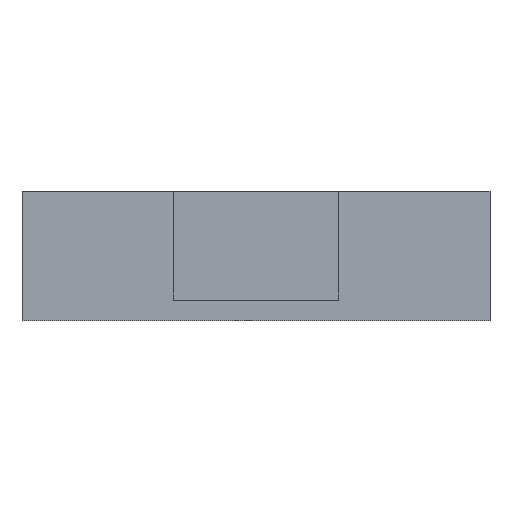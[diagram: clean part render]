
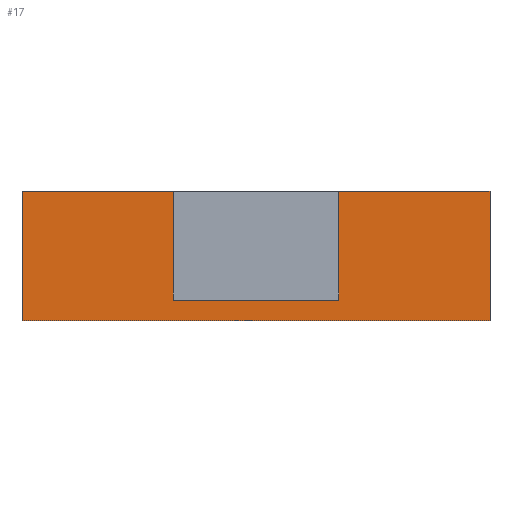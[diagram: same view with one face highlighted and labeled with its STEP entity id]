
A CAD part, left-side view. The second image highlights one B-rep face of the part: STEP entity #17.
In plain terms, the highlighted planar face has unit normal (-1, 0, 0).
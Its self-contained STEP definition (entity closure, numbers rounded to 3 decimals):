
#17 = ADVANCED_FACE('',(#18),#32,.F.);
#18 = FACE_BOUND('',#19,.F.);
#19 = EDGE_LOOP('',(#20,#55,#83,#111,#139,#162,#190,#218));
#20 = ORIENTED_EDGE('',*,*,#21,.F.);
#21 = EDGE_CURVE('',#22,#24,#26,.T.);
#22 = VERTEX_POINT('',#23);
#23 = CARTESIAN_POINT('',(-10.8,-44.5,24.05));
#24 = VERTEX_POINT('',#25);
#25 = CARTESIAN_POINT('',(-10.8,-39.,24.05));
#26 = SURFACE_CURVE('',#27,(#31,#43),.PCURVE_S1.);
#27 = LINE('',#28,#29);
#28 = CARTESIAN_POINT('',(-10.8,-44.5,24.05));
#29 = VECTOR('',#30,1.);
#30 = DIRECTION('',(0.,1.,0.));
#31 = PCURVE('',#32,#37);
#32 = PLANE('',#33);
#33 = AXIS2_PLACEMENT_3D('',#34,#35,#36);
#34 = CARTESIAN_POINT('',(-10.8,-44.5,19.35));
#35 = DIRECTION('',(1.,0.,0.));
#36 = DIRECTION('',(0.,0.,1.));
#37 = DEFINITIONAL_REPRESENTATION('',(#38),#42);
#38 = LINE('',#39,#40);
#39 = CARTESIAN_POINT('',(4.7,0.));
#40 = VECTOR('',#41,1.);
#41 = DIRECTION('',(0.,-1.));
#42 = ( GEOMETRIC_REPRESENTATION_CONTEXT(2) 
PARAMETRIC_REPRESENTATION_CONTEXT() REPRESENTATION_CONTEXT('2D SPACE',''
  ) );
#43 = PCURVE('',#44,#49);
#44 = PLANE('',#45);
#45 = AXIS2_PLACEMENT_3D('',#46,#47,#48);
#46 = CARTESIAN_POINT('',(-10.8,-44.5,24.05));
#47 = DIRECTION('',(0.,0.,1.));
#48 = DIRECTION('',(1.,0.,0.));
#49 = DEFINITIONAL_REPRESENTATION('',(#50),#54);
#50 = LINE('',#51,#52);
#51 = CARTESIAN_POINT('',(0.,0.));
#52 = VECTOR('',#53,1.);
#53 = DIRECTION('',(0.,1.));
#54 = ( GEOMETRIC_REPRESENTATION_CONTEXT(2) 
PARAMETRIC_REPRESENTATION_CONTEXT() REPRESENTATION_CONTEXT('2D SPACE',''
  ) );
#55 = ORIENTED_EDGE('',*,*,#56,.F.);
#56 = EDGE_CURVE('',#57,#22,#59,.T.);
#57 = VERTEX_POINT('',#58);
#58 = CARTESIAN_POINT('',(-10.8,-44.5,19.35));
#59 = SURFACE_CURVE('',#60,(#64,#71),.PCURVE_S1.);
#60 = LINE('',#61,#62);
#61 = CARTESIAN_POINT('',(-10.8,-44.5,19.35));
#62 = VECTOR('',#63,1.);
#63 = DIRECTION('',(0.,0.,1.));
#64 = PCURVE('',#32,#65);
#65 = DEFINITIONAL_REPRESENTATION('',(#66),#70);
#66 = LINE('',#67,#68);
#67 = CARTESIAN_POINT('',(0.,0.));
#68 = VECTOR('',#69,1.);
#69 = DIRECTION('',(1.,0.));
#70 = ( GEOMETRIC_REPRESENTATION_CONTEXT(2) 
PARAMETRIC_REPRESENTATION_CONTEXT() REPRESENTATION_CONTEXT('2D SPACE',''
  ) );
#71 = PCURVE('',#72,#77);
#72 = PLANE('',#73);
#73 = AXIS2_PLACEMENT_3D('',#74,#75,#76);
#74 = CARTESIAN_POINT('',(-10.8,-44.5,19.35));
#75 = DIRECTION('',(0.,1.,0.));
#76 = DIRECTION('',(0.,0.,1.));
#77 = DEFINITIONAL_REPRESENTATION('',(#78),#82);
#78 = LINE('',#79,#80);
#79 = CARTESIAN_POINT('',(0.,0.));
#80 = VECTOR('',#81,1.);
#81 = DIRECTION('',(1.,0.));
#82 = ( GEOMETRIC_REPRESENTATION_CONTEXT(2) 
PARAMETRIC_REPRESENTATION_CONTEXT() REPRESENTATION_CONTEXT('2D SPACE',''
  ) );
#83 = ORIENTED_EDGE('',*,*,#84,.T.);
#84 = EDGE_CURVE('',#57,#85,#87,.T.);
#85 = VERTEX_POINT('',#86);
#86 = CARTESIAN_POINT('',(-10.8,-27.5,19.35));
#87 = SURFACE_CURVE('',#88,(#92,#99),.PCURVE_S1.);
#88 = LINE('',#89,#90);
#89 = CARTESIAN_POINT('',(-10.8,-44.5,19.35));
#90 = VECTOR('',#91,1.);
#91 = DIRECTION('',(0.,1.,0.));
#92 = PCURVE('',#32,#93);
#93 = DEFINITIONAL_REPRESENTATION('',(#94),#98);
#94 = LINE('',#95,#96);
#95 = CARTESIAN_POINT('',(0.,0.));
#96 = VECTOR('',#97,1.);
#97 = DIRECTION('',(0.,-1.));
#98 = ( GEOMETRIC_REPRESENTATION_CONTEXT(2) 
PARAMETRIC_REPRESENTATION_CONTEXT() REPRESENTATION_CONTEXT('2D SPACE',''
  ) );
#99 = PCURVE('',#100,#105);
#100 = PLANE('',#101);
#101 = AXIS2_PLACEMENT_3D('',#102,#103,#104);
#102 = CARTESIAN_POINT('',(-10.8,-44.5,19.35));
#103 = DIRECTION('',(0.,0.,1.));
#104 = DIRECTION('',(1.,0.,0.));
#105 = DEFINITIONAL_REPRESENTATION('',(#106),#110);
#106 = LINE('',#107,#108);
#107 = CARTESIAN_POINT('',(0.,0.));
#108 = VECTOR('',#109,1.);
#109 = DIRECTION('',(0.,1.));
#110 = ( GEOMETRIC_REPRESENTATION_CONTEXT(2) 
PARAMETRIC_REPRESENTATION_CONTEXT() REPRESENTATION_CONTEXT('2D SPACE',''
  ) );
#111 = ORIENTED_EDGE('',*,*,#112,.T.);
#112 = EDGE_CURVE('',#85,#113,#115,.T.);
#113 = VERTEX_POINT('',#114);
#114 = CARTESIAN_POINT('',(-10.8,-27.5,24.05));
#115 = SURFACE_CURVE('',#116,(#120,#127),.PCURVE_S1.);
#116 = LINE('',#117,#118);
#117 = CARTESIAN_POINT('',(-10.8,-27.5,19.35));
#118 = VECTOR('',#119,1.);
#119 = DIRECTION('',(0.,0.,1.));
#120 = PCURVE('',#32,#121);
#121 = DEFINITIONAL_REPRESENTATION('',(#122),#126);
#122 = LINE('',#123,#124);
#123 = CARTESIAN_POINT('',(0.,-17.));
#124 = VECTOR('',#125,1.);
#125 = DIRECTION('',(1.,0.));
#126 = ( GEOMETRIC_REPRESENTATION_CONTEXT(2) 
PARAMETRIC_REPRESENTATION_CONTEXT() REPRESENTATION_CONTEXT('2D SPACE',''
  ) );
#127 = PCURVE('',#128,#133);
#128 = PLANE('',#129);
#129 = AXIS2_PLACEMENT_3D('',#130,#131,#132);
#130 = CARTESIAN_POINT('',(-10.8,-27.5,19.35));
#131 = DIRECTION('',(0.,1.,0.));
#132 = DIRECTION('',(0.,0.,1.));
#133 = DEFINITIONAL_REPRESENTATION('',(#134),#138);
#134 = LINE('',#135,#136);
#135 = CARTESIAN_POINT('',(0.,0.));
#136 = VECTOR('',#137,1.);
#137 = DIRECTION('',(1.,0.));
#138 = ( GEOMETRIC_REPRESENTATION_CONTEXT(2) 
PARAMETRIC_REPRESENTATION_CONTEXT() REPRESENTATION_CONTEXT('2D SPACE',''
  ) );
#139 = ORIENTED_EDGE('',*,*,#140,.F.);
#140 = EDGE_CURVE('',#141,#113,#143,.T.);
#141 = VERTEX_POINT('',#142);
#142 = CARTESIAN_POINT('',(-10.8,-33.,24.05));
#143 = SURFACE_CURVE('',#144,(#148,#155),.PCURVE_S1.);
#144 = LINE('',#145,#146);
#145 = CARTESIAN_POINT('',(-10.8,-44.5,24.05));
#146 = VECTOR('',#147,1.);
#147 = DIRECTION('',(0.,1.,0.));
#148 = PCURVE('',#32,#149);
#149 = DEFINITIONAL_REPRESENTATION('',(#150),#154);
#150 = LINE('',#151,#152);
#151 = CARTESIAN_POINT('',(4.7,0.));
#152 = VECTOR('',#153,1.);
#153 = DIRECTION('',(0.,-1.));
#154 = ( GEOMETRIC_REPRESENTATION_CONTEXT(2) 
PARAMETRIC_REPRESENTATION_CONTEXT() REPRESENTATION_CONTEXT('2D SPACE',''
  ) );
#155 = PCURVE('',#44,#156);
#156 = DEFINITIONAL_REPRESENTATION('',(#157),#161);
#157 = LINE('',#158,#159);
#158 = CARTESIAN_POINT('',(0.,0.));
#159 = VECTOR('',#160,1.);
#160 = DIRECTION('',(0.,1.));
#161 = ( GEOMETRIC_REPRESENTATION_CONTEXT(2) 
PARAMETRIC_REPRESENTATION_CONTEXT() REPRESENTATION_CONTEXT('2D SPACE',''
  ) );
#162 = ORIENTED_EDGE('',*,*,#163,.F.);
#163 = EDGE_CURVE('',#164,#141,#166,.T.);
#164 = VERTEX_POINT('',#165);
#165 = CARTESIAN_POINT('',(-10.8,-33.,20.1));
#166 = SURFACE_CURVE('',#167,(#171,#178),.PCURVE_S1.);
#167 = LINE('',#168,#169);
#168 = CARTESIAN_POINT('',(-10.8,-33.,19.725));
#169 = VECTOR('',#170,1.);
#170 = DIRECTION('',(0.,0.,1.));
#171 = PCURVE('',#32,#172);
#172 = DEFINITIONAL_REPRESENTATION('',(#173),#177);
#173 = LINE('',#174,#175);
#174 = CARTESIAN_POINT('',(0.375,-11.5));
#175 = VECTOR('',#176,1.);
#176 = DIRECTION('',(1.,0.));
#177 = ( GEOMETRIC_REPRESENTATION_CONTEXT(2) 
PARAMETRIC_REPRESENTATION_CONTEXT() REPRESENTATION_CONTEXT('2D SPACE',''
  ) );
#178 = PCURVE('',#179,#184);
#179 = PLANE('',#180);
#180 = AXIS2_PLACEMENT_3D('',#181,#182,#183);
#181 = CARTESIAN_POINT('',(-34.,-33.,20.1));
#182 = DIRECTION('',(0.,1.,0.));
#183 = DIRECTION('',(0.,0.,1.));
#184 = DEFINITIONAL_REPRESENTATION('',(#185),#189);
#185 = LINE('',#186,#187);
#186 = CARTESIAN_POINT('',(-0.375,23.2));
#187 = VECTOR('',#188,1.);
#188 = DIRECTION('',(1.,0.));
#189 = ( GEOMETRIC_REPRESENTATION_CONTEXT(2) 
PARAMETRIC_REPRESENTATION_CONTEXT() REPRESENTATION_CONTEXT('2D SPACE',''
  ) );
#190 = ORIENTED_EDGE('',*,*,#191,.T.);
#191 = EDGE_CURVE('',#164,#192,#194,.T.);
#192 = VERTEX_POINT('',#193);
#193 = CARTESIAN_POINT('',(-10.8,-39.,20.1));
#194 = SURFACE_CURVE('',#195,(#199,#206),.PCURVE_S1.);
#195 = LINE('',#196,#197);
#196 = CARTESIAN_POINT('',(-10.8,-41.75,20.1));
#197 = VECTOR('',#198,1.);
#198 = DIRECTION('',(0.,-1.,0.));
#199 = PCURVE('',#32,#200);
#200 = DEFINITIONAL_REPRESENTATION('',(#201),#205);
#201 = LINE('',#202,#203);
#202 = CARTESIAN_POINT('',(0.75,-2.75));
#203 = VECTOR('',#204,1.);
#204 = DIRECTION('',(0.,1.));
#205 = ( GEOMETRIC_REPRESENTATION_CONTEXT(2) 
PARAMETRIC_REPRESENTATION_CONTEXT() REPRESENTATION_CONTEXT('2D SPACE',''
  ) );
#206 = PCURVE('',#207,#212);
#207 = PLANE('',#208);
#208 = AXIS2_PLACEMENT_3D('',#209,#210,#211);
#209 = CARTESIAN_POINT('',(-34.,-39.,20.1));
#210 = DIRECTION('',(0.,0.,1.));
#211 = DIRECTION('',(1.,0.,0.));
#212 = DEFINITIONAL_REPRESENTATION('',(#213),#217);
#213 = LINE('',#214,#215);
#214 = CARTESIAN_POINT('',(23.2,-2.75));
#215 = VECTOR('',#216,1.);
#216 = DIRECTION('',(0.,-1.));
#217 = ( GEOMETRIC_REPRESENTATION_CONTEXT(2) 
PARAMETRIC_REPRESENTATION_CONTEXT() REPRESENTATION_CONTEXT('2D SPACE',''
  ) );
#218 = ORIENTED_EDGE('',*,*,#219,.T.);
#219 = EDGE_CURVE('',#192,#24,#220,.T.);
#220 = SURFACE_CURVE('',#221,(#225,#232),.PCURVE_S1.);
#221 = LINE('',#222,#223);
#222 = CARTESIAN_POINT('',(-10.8,-39.,19.725));
#223 = VECTOR('',#224,1.);
#224 = DIRECTION('',(0.,0.,1.));
#225 = PCURVE('',#32,#226);
#226 = DEFINITIONAL_REPRESENTATION('',(#227),#231);
#227 = LINE('',#228,#229);
#228 = CARTESIAN_POINT('',(0.375,-5.5));
#229 = VECTOR('',#230,1.);
#230 = DIRECTION('',(1.,0.));
#231 = ( GEOMETRIC_REPRESENTATION_CONTEXT(2) 
PARAMETRIC_REPRESENTATION_CONTEXT() REPRESENTATION_CONTEXT('2D SPACE',''
  ) );
#232 = PCURVE('',#233,#238);
#233 = PLANE('',#234);
#234 = AXIS2_PLACEMENT_3D('',#235,#236,#237);
#235 = CARTESIAN_POINT('',(-34.,-39.,20.1));
#236 = DIRECTION('',(0.,1.,0.));
#237 = DIRECTION('',(0.,0.,1.));
#238 = DEFINITIONAL_REPRESENTATION('',(#239),#243);
#239 = LINE('',#240,#241);
#240 = CARTESIAN_POINT('',(-0.375,23.2));
#241 = VECTOR('',#242,1.);
#242 = DIRECTION('',(1.,0.));
#243 = ( GEOMETRIC_REPRESENTATION_CONTEXT(2) 
PARAMETRIC_REPRESENTATION_CONTEXT() REPRESENTATION_CONTEXT('2D SPACE',''
  ) );
